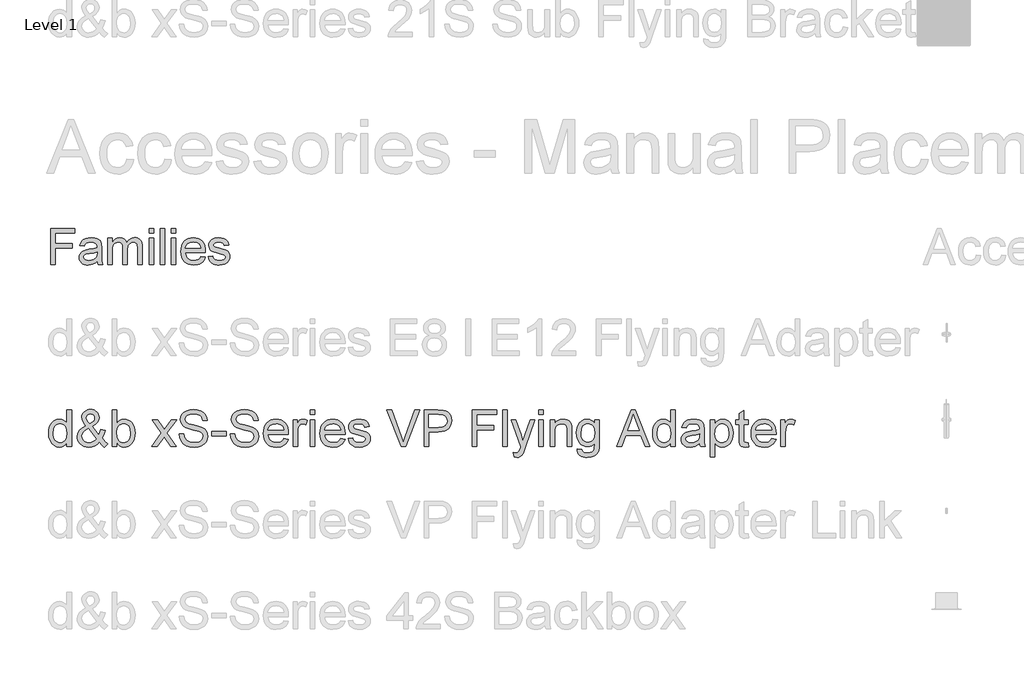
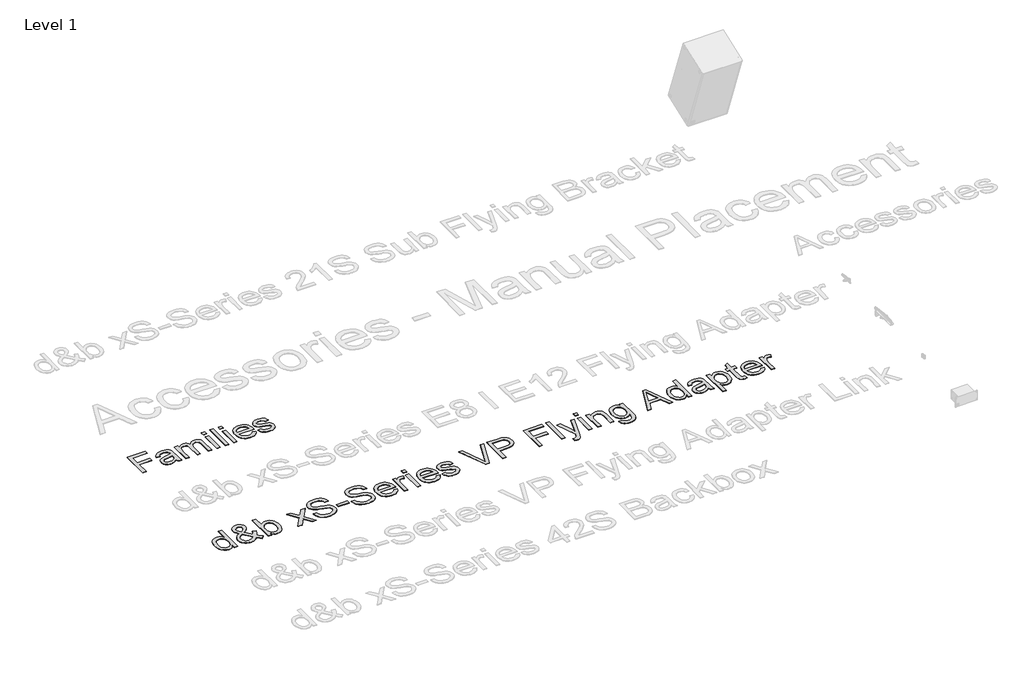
# One storey, part 11 of 55: 2 proxies.
"""IFC4 building model written with IfcOpenShell, lengths in millimetres."""

from ifc_helpers import new_model, si_unit, origin, origin_with_axes, place, context, project, spatial, polyline, outline, extrude, element, save

model = new_model("IFC4")

# Units and contexts
model_context = context("Model", 3, world=origin())
ifc_project = project(units=[si_unit("LENGTHUNIT", "METRE", prefix="MILLI")], contexts=[model_context])

# Site, building, storey
site = spatial("IfcSite", under=ifc_project)
building = spatial("IfcBuilding", under=site)
storey = spatial("IfcBuildingStorey", under=building, Name="Level 1", Elevation=0.0)

# Proxies
placement = place(None, origin())
element("IfcBuildingElementProxy", 1, Name="400mm Arial", ObjectType="400mm Arial", at=placement, inside=storey, context=model_context, shape_type="SweptSolid", body=[
    extrude(outline(polyline([(-21056.720891, -26148.6945164), (-21056.720891, -25756.9369407), (-20793.5087698, -25756.9369407), (-20793.5087698, -25805.9066376), (-21007.7511941, -25805.9066376), (-21007.7511941, -25922.2096679), (-20824.1148304, -25922.2096679), (-20824.1148304, -25971.1793649), (-21007.7511941, -25971.1793649), (-21007.7511941, -26148.6945164), (-21056.720891, -26148.6945164)])), origin_with_axes(), (0.0, 0.0, 1.0), 5.0),
    extrude(outline(polyline([(-20548.660285, -26111.9672437), (-20572.0571836, -26132.02856), (-20596.1475009, -26145.1556907), (-20621.4811893, -26152.4007191), (-20648.6082016, -26154.8157285), (-20670.4120309, -26153.3631362), (-20689.5318522, -26149.0053592), (-20705.9676654, -26141.7423976), (-20719.7194706, -26131.5742513), (-20730.5780466, -26119.1465169), (-20738.3341723, -26105.104791), (-20742.9878477, -26089.4490737), (-20744.5390729, -26072.1793649), (-20742.1957963, -26051.8789388), (-20735.1659668, -26033.4435695), (-20724.3223352, -26017.6623195), (-20710.5376524, -26005.3242513), (-20676.2493001, -25989.2560695), (-20633.879035, -25981.8914861), (-20583.8094327, -25974.144327), (-20548.9472168, -25965.0581528), (-20548.660285, -25954.1547437), (-20552.0317338, -25932.3001035), (-20562.1460804, -25918.0013346), (-20584.7658721, -25907.3848573), (-20616.2805501, -25903.8460316), (-20645.4519516, -25906.2012636), (-20665.8241107, -25913.2669596), (-20679.7163929, -25926.3343128), (-20689.4481638, -25946.6945164), (-20738.4178607, -25940.5733043), (-20729.9175056, -25913.7930013), (-20717.2327282, -25892.7513346), (-20699.1799346, -25876.6592418), (-20674.5755312, -25864.7276604), (-20644.4835568, -25857.339166), (-20609.9680501, -25854.8763346), (-20576.8632916, -25857.0522342), (-20550.6209857, -25863.5799331), (-20530.8346458, -25873.3953924), (-20517.097785, -25885.4345732), (-20507.9876997, -25900.3191613), (-20502.0816865, -25918.6708422), (-20499.690588, -25961.519327), (-20499.690588, -26022.4445164), (-20497.2038456, -26107.5198005), (-20487.4481638, -26148.6945164), (-20536.4178607, -26148.6945164), (-20544.2606638, -26131.6698952), (-20548.660285, -26111.9672437)]), holes=[polyline([(-20548.660285, -26014.0278498), (-20581.5618001, -26022.1814956), (-20627.6621789, -26029.0439482), (-20669.7933342, -26036.9823952), (-20680.7565208, -26042.4101888), (-20688.8743001, -26049.894327), (-20693.8956069, -26058.8609464), (-20695.5693759, -26068.7361831), (-20691.9229507, -26083.2979729), (-20680.9836751, -26095.2295543), (-20662.990659, -26103.1919123), (-20638.1830122, -26105.8460316), (-20611.8809289, -26102.9169359), (-20588.6394516, -26094.129649), (-20569.7975956, -26081.1818507), (-20556.6943759, -26065.771221), (-20550.8840066, -26049.894327), (-20548.9472168, -26027.896221), (-20548.660285, -26014.0278498)])]), origin_with_axes(), (0.0, 0.0, 1.0), 5.0),
    extrude(outline(polyline([(-20432.3572547, -26148.6945164), (-20432.3572547, -25860.9975467), (-20383.3875577, -25860.9975467), (-20383.3875577, -25908.3412967), (-20368.658391, -25886.594256), (-20349.720891, -25869.5576793), (-20327.2206543, -25858.5466708), (-20301.8032774, -25854.8763346), (-20274.5686657, -25858.6184037), (-20252.7379365, -25869.8446111), (-20236.4306448, -25887.8137162), (-20225.7663456, -25911.7844785), (-20207.9167954, -25886.8871656), (-20187.5565918, -25869.1033706), (-20164.6857348, -25858.4330936), (-20139.3042244, -25854.8763346), (-20119.7002057, -25856.3558268), (-20102.4932632, -25860.7943034), (-20087.683397, -25868.1917643), (-20075.2706069, -25878.5482096), (-20065.4581365, -25891.9831942), (-20058.4492291, -25908.6162731), (-20054.2438846, -25928.4474461), (-20052.8421032, -25951.4767134), (-20052.8421032, -26148.6945164), (-20101.8118001, -26148.6945164), (-20101.8118001, -25972.5183801), (-20106.3548872, -25931.630596), (-20112.7391202, -25920.3565666), (-20122.8056448, -25911.4975467), (-20135.7534431, -25905.7589104), (-20150.7814971, -25903.8460316), (-20177.3107348, -25908.7477835), (-20198.9382206, -25923.4530392), (-20207.3279874, -25934.7330463), (-20213.320678, -25948.96606), (-20218.1148304, -25986.2911073), (-20218.1148304, -26148.6945164), (-20267.0845274, -26148.6945164), (-20267.0845274, -25967.0666755), (-20269.9179791, -25939.3777551), (-20278.4183342, -25919.6272816), (-20293.3746552, -25907.7913441), (-20315.5760047, -25903.8460316), (-20334.4417717, -25906.4762399), (-20351.8250577, -25914.3668649), (-20366.1716486, -25927.3266187), (-20375.9273304, -25945.1642134), (-20381.5225009, -25969.9120827), (-20383.3875577, -26003.6026604), (-20383.3875577, -26148.6945164), (-20432.3572547, -26148.6945164)])), origin_with_axes(), (0.0, 0.0, 1.0), 5.0),
    extrude(outline(polyline([(-19979.3875577, -25805.9066376), (-19979.3875577, -25756.9369407), (-19930.4178607, -25756.9369407), (-19930.4178607, -25805.9066376), (-19979.3875577, -25805.9066376)])), origin_with_axes(), (0.0, 0.0, 1.0), 5.0),
    extrude(outline(polyline([(-19979.3875577, -26148.6945164), (-19979.3875577, -25860.9975467), (-19930.4178607, -25860.9975467), (-19930.4178607, -26148.6945164), (-19979.3875577, -26148.6945164)])), origin_with_axes(), (0.0, 0.0, 1.0), 5.0),
    extrude(outline(polyline([(-19856.9633153, -26148.6945164), (-19856.9633153, -25756.9369407), (-19807.9936183, -25756.9369407), (-19807.9936183, -26148.6945164), (-19856.9633153, -26148.6945164)])), origin_with_axes(), (0.0, 0.0, 1.0), 5.0),
    extrude(outline(polyline([(-19734.5390729, -25805.9066376), (-19734.5390729, -25756.9369407), (-19685.5693759, -25756.9369407), (-19685.5693759, -25805.9066376), (-19734.5390729, -25805.9066376)])), origin_with_axes(), (0.0, 0.0, 1.0), 5.0),
    extrude(outline(polyline([(-19734.5390729, -26148.6945164), (-19734.5390729, -25860.9975467), (-19685.5693759, -25860.9975467), (-19685.5693759, -26148.6945164), (-19734.5390729, -26148.6945164)])), origin_with_axes(), (0.0, 0.0, 1.0), 5.0),
    extrude(outline(polyline([(-19410.6886941, -26062.9975467), (-19362.6754365, -26069.1187589), (-19370.0370309, -26088.3491684), (-19379.975034, -26105.2960789), (-19392.4894457, -26119.9594904), (-19407.580266, -26132.3394028), (-19425.0920736, -26142.1727953), (-19444.8694469, -26149.1966471), (-19491.220891, -26154.8157285), (-19521.605775, -26152.3917525), (-19548.6789876, -26145.1198242), (-19572.4405288, -26132.9999437), (-19592.8903986, -26116.0321111), (-19609.3351784, -26094.6885683), (-19621.0814497, -26069.4415571), (-19628.1292125, -26040.2910777), (-19630.4784668, -26007.2371301), (-19628.1053015, -25973.062355), (-19620.9858058, -25942.9404918), (-19609.1199796, -25916.8715406), (-19592.5078229, -25894.8555013), (-19572.1117528, -25877.3646159), (-19548.8941865, -25864.8711263), (-19522.855124, -25857.3750325), (-19493.9945653, -25854.8763346), (-19466.0635461, -25857.3690548), (-19440.8045795, -25864.8472153), (-19418.2176654, -25877.3108161), (-19398.3028039, -25894.7598573), (-19382.0463231, -25916.7280747), (-19370.4345511, -25942.7492039), (-19363.4674879, -25972.8232451), (-19361.1451335, -26006.9501982), (-19361.4320653, -26020.1490619), (-19581.5087698, -26020.1490619), (-19578.6723292, -26039.6903142), (-19573.0323257, -26056.8046017), (-19564.5887592, -26071.4919241), (-19553.3416297, -26083.7522816), (-19524.9234242, -26100.3225941), (-19490.2644516, -26105.8460316), (-19464.2014782, -26103.2875562), (-19442.2511941, -26095.6121301), (-19424.4135994, -26082.3415335), (-19410.6886941, -26062.9975467)]), holes=[polyline([(-19581.5087698, -25971.1793649), (-19410.1148304, -25971.1793649), (-19416.7381732, -25945.3076793), (-19429.721838, -25926.800577), (-19443.076123, -25916.7579634), (-19458.2715539, -25909.5846679), (-19494.1858532, -25903.8460316), (-19527.1949677, -25908.4249852), (-19554.4893569, -25922.161846), (-19573.4627234, -25943.5741329), (-19581.5087698, -25971.1793649)])]), origin_with_axes(), (0.0, 0.0, 1.0), 5.0),
    extrude(outline(polyline([(-19330.5390729, -26062.9975467), (-19281.5693759, -26056.8763346), (-19273.8461278, -26077.8223573), (-19258.9017622, -26093.2210316), (-19236.6406354, -26102.6897816), (-19206.9671032, -26105.8460316), (-19177.6522357, -26102.9528024), (-19157.0409668, -26094.2731149), (-19144.8463645, -26081.6959369), (-19140.7814971, -26067.1102361), (-19144.8702755, -26054.628702), (-19157.1366107, -26045.1121301), (-19207.5409668, -26031.1481149), (-19281.2824441, -26007.1893081), (-19299.9449677, -25995.1501272), (-19313.4666297, -25979.2134558), (-19321.680053, -25960.3955107), (-19324.4178607, -25939.7125089), (-19322.2180501, -25920.7391424), (-19315.6186183, -25903.224346), (-19305.2173399, -25887.8615382), (-19291.6119895, -25875.3441376), (-19260.4798872, -25860.8540808), (-19218.3487319, -25854.8763346), (-19186.4753891, -25857.2793886), (-19158.7625577, -25864.4885505), (-19136.4775198, -25875.7984464), (-19120.8875577, -25890.503702), (-19110.5580122, -25909.6922674), (-19104.0542244, -25934.4520922), (-19153.0239213, -25940.5733043), (-19159.2049109, -25925.1626746), (-19171.4353797, -25913.5538914), (-19189.8348825, -25906.2729965), (-19214.5229744, -25903.8460316), (-19242.6422925, -25906.1653971), (-19261.3885047, -25913.1234937), (-19271.933249, -25923.1661073), (-19275.4481638, -25934.739024), (-19269.6138835, -25948.989971), (-19251.345891, -25959.7977361), (-19209.1669138, -25970.2229255), (-19137.2904933, -25993.2731149), (-19118.3051713, -26004.2960789), (-19103.9107585, -26019.3839104), (-19094.8365397, -26038.5844312), (-19091.8118001, -26061.9454634), (-19095.3625814, -26086.0955581), (-19106.0149251, -26108.8109937), (-19123.3623446, -26128.3104018), (-19146.9983532, -26142.8124142), (-19175.5480691, -26151.8149), (-19207.6366107, -26154.8157285), (-19233.9924938, -26153.369114), (-19257.0127944, -26149.0292702), (-19276.6975127, -26141.7961973), (-19293.0466486, -26131.6698952), (-19306.4009336, -26118.6981859), (-19317.1010994, -26102.9288914), (-19325.1471458, -26084.3620117), (-19330.5390729, -26062.9975467)])), origin_with_axes(), (0.0, 0.0, 1.0), 5.0),
])
element("IfcBuildingElementProxy", 2, Name="400mm Arial", ObjectType="400mm Arial", at=placement, inside=storey, context=model_context, shape_type="SweptSolid", body=[
    extrude(outline(polyline([(-20879.8211974, -28148.6945164), (-20879.8211974, -28101.3113154), (-20894.8491769, -28124.7883181), (-20913.0532043, -28141.5576057), (-20934.4332796, -28151.6191783), (-20958.9894028, -28154.9730358), (-20991.4611202, -28150.1169935), (-21021.1859854, -28135.5488665), (-21046.3491139, -28112.2864616), (-21065.1356211, -28081.3475858), (-21076.8342686, -28043.9830379), (-21080.7338177, -28001.4436165), (-21077.1408369, -27959.4314926), (-21066.3618945, -27921.4905962), (-21048.4092531, -27889.7791682), (-21023.2951755, -27866.4554497), (-20992.9203855, -27852.1080519), (-20959.1856065, -27847.325586), (-20934.6110892, -27850.7468885), (-20912.8815261, -27861.0107962), (-20894.4629008, -27876.7438829), (-20879.8211974, -27896.5727224), (-20879.8211974, -27746.8692758), (-20829.5930424, -27746.8692758), (-20829.5930424, -28148.6945164), (-20879.8211974, -28148.6945164)]), holes=[polyline([(-21030.5056627, -28001.2474128), (-21029.089317, -28025.6042665), (-21024.8402799, -28046.6808392), (-21017.7585515, -28064.4771307), (-21007.8441318, -28078.9931411), (-20983.1469871, -28098.3069458), (-20969.2717046, -28103.135397), (-20954.3786151, -28104.7448807), (-20939.415015, -28103.2089734), (-20925.6225058, -28098.6012514), (-20901.5507606, -28080.1703635), (-20892.0440767, -28066.2613584), (-20885.2535882, -28049.1088603), (-20879.8211974, -28005.0733855), (-20885.3516901, -27956.9298951), (-20892.2648059, -27938.3947739), (-20901.9431681, -27923.5507354), (-20913.6448812, -27912.1770504), (-20926.6280499, -27904.0529896), (-20940.8926743, -27899.1785532), (-20956.4387543, -27897.5537411), (-20971.6261493, -27899.1141738), (-20985.5014319, -27903.7954722), (-20998.064602, -27911.5976362), (-21009.3156597, -27922.5206658), (-21018.586286, -27936.8036843), (-21025.2081619, -27954.6858149), (-21030.5056627, -28001.2474128)])]), origin_with_axes(), (0.0, 0.0, 1.0), 5.0),
    extrude(outline(polyline([(-20523.809528, -28099.0549725), (-20549.3405384, -28123.5191252), (-20577.0788409, -28140.99352), (-20607.0734862, -28151.4781569), (-20639.3735254, -28154.9730358), (-20668.6814577, -28152.3855991), (-20694.8010793, -28144.623289), (-20717.7323904, -28131.6861055), (-20737.4753908, -28113.5740486), (-20750.308341, -28096.2038871), (-20759.4747341, -28077.8404442), (-20764.9745699, -28058.4837198), (-20766.8078485, -28038.1337141), (-20760.9094739, -28002.9396699), (-20743.2143499, -27971.3263438), (-20713.796053, -27943.3182613), (-20672.7281596, -27918.9399477), (-20694.6416638, -27890.5885086), (-20707.7995765, -27868.1231814), (-20714.3846642, -27848.9442668), (-20716.5796934, -27830.4520651), (-20714.8506481, -27812.8979626), (-20709.6635119, -27796.5333452), (-20701.018285, -27781.3582129), (-20688.9149674, -27767.3725657), (-20674.1935562, -27755.6555241), (-20657.6940487, -27747.2862088), (-20639.4164449, -27742.2646195), (-20619.3607448, -27740.5907564), (-20600.212487, -27742.1910431), (-20582.8913764, -27746.9919032), (-20567.397413, -27754.9933366), (-20553.7305969, -27766.1953433), (-20542.5715097, -27779.6414302), (-20534.6007332, -27794.3751041), (-20529.8182672, -27810.396365), (-20528.2241119, -27827.7052129), (-20532.9452642, -27855.68877), (-20547.108721, -27881.563137), (-20570.7144823, -27905.3283139), (-20603.7625482, -27926.9843007), (-20531.069066, -28017.5323224), (-20518.6837055, -27991.6579554), (-20509.3885538, -27961.9085647), (-20459.1603987, -27972.7978718), (-20474.6114425, -28019.3226815), (-20494.6732739, -28055.4977443), (-20466.1256311, -28088.8033276), (-20434.0463211, -28116.3209009), (-20471.7174374, -28154.9730358), (-20497.3465498, -28131.52669), (-20523.809528, -28099.0549725)]), holes=[polyline([(-20557.4584678, -28062.8553842), (-20647.1235727, -27950.9211558), (-20681.3733865, -27972.7733463), (-20702.305872, -27993.0068561), (-20713.0112381, -28012.3329235), (-20716.5796934, -28031.4627873), (-20711.6991256, -28055.1543878), (-20697.0574222, -28079.7289051), (-20686.2784798, -28090.6733944), (-20673.4639236, -28098.4908868), (-20658.6137537, -28103.1813823), (-20641.7279702, -28104.7448807), (-20619.0051256, -28101.8263502), (-20595.5710425, -28093.0707588), (-20574.1480476, -28079.6798541), (-20557.4584678, -28062.8553842)]), polyline([(-20629.1709314, -27895.2973981), (-20602.9041569, -27878.6323438), (-20587.8700461, -27864.1500559), (-20580.8067117, -27850.0601755), (-20578.452267, -27834.5723435), (-20581.5547385, -27817.0243723), (-20590.862153, -27803.0325938), (-20604.829406, -27793.8723321), (-20621.9113933, -27790.8189115), (-20639.3612626, -27793.8478066), (-20653.6473468, -27802.9344919), (-20663.1754905, -27816.3867102), (-20666.3515384, -27832.5122043), (-20662.0350563, -27850.9063041), (-20648.9875082, -27871.360543), (-20629.1709314, -27895.2973981)])]), origin_with_axes(), (0.0, 0.0, 1.0), 5.0),
    extrude(outline(polyline([(-20333.590011, -28148.6945164), (-20383.8181661, -28148.6945164), (-20383.8181661, -27746.8692758), (-20333.590011, -27746.8692758), (-20333.590011, -27895.8860093), (-20317.0721094, -27874.6408241), (-20298.4204923, -27859.4656918), (-20277.6351595, -27850.3606124), (-20254.7161112, -27847.325586), (-20228.8417442, -27850.0601755), (-20204.3898543, -27858.263944), (-20182.758393, -27871.4218567), (-20165.3453119, -27889.0188788), (-20151.6968898, -27910.883332), (-20141.3594058, -27936.8435381), (-20134.8478945, -27965.8203766), (-20132.6773907, -27996.734727), (-20134.9245365, -28032.4070178), (-20141.6659741, -28063.7873519), (-20152.9017034, -28090.8757295), (-20168.6317244, -28113.6721505), (-20187.5132678, -28131.7412878), (-20208.2035643, -28144.6478145), (-20230.702614, -28152.3917305), (-20255.0104168, -28154.9730358), (-20278.6836232, -28151.6437038), (-20299.671291, -28141.6557076), (-20317.9734203, -28125.0090473), (-20333.590011, -28101.7037229), (-20333.590011, -28148.6945164)]), holes=[polyline([(-20333.590011, -27999.0891717), (-20330.1564457, -28040.9786682), (-20319.8557498, -28069.3301073), (-20307.6849872, -28084.8240707), (-20293.5399244, -28095.8911874), (-20277.4205617, -28102.5314574), (-20259.3268989, -28104.7448807), (-20244.3050508, -28103.1139372), (-20230.3377977, -28098.2211067), (-20217.4251396, -28090.0663891), (-20205.5670767, -28078.6497845), (-20195.6526569, -28064.0019498), (-20188.5709285, -28046.1535416), (-20184.3218914, -28025.1045601), (-20182.9055458, -28000.8550053), (-20188.3379366, -27954.8942814), (-20195.1284251, -27937.1010555), (-20204.6351089, -27922.7659205), (-20216.0670419, -27911.735592), (-20228.6332778, -27903.8567859), (-20242.3338164, -27899.1295023), (-20257.1686579, -27897.5537411), (-20272.190506, -27899.1846846), (-20286.1577591, -27904.0775151), (-20299.0704171, -27912.2322327), (-20310.9284801, -27923.6488372), (-20320.8428999, -27938.1495192), (-20327.9246283, -27955.556469), (-20332.1736653, -27975.8696865), (-20333.590011, -27999.0891717)])]), origin_with_axes(), (0.0, 0.0, 1.0), 5.0),
    extrude(outline(polyline([(-19950.6003285, -28148.6945164), (-19843.2768878, -28000.2663941), (-19944.3218092, -27853.6041054), (-19884.0872638, -27853.6041054), (-19835.3306367, -27924.3355503), (-19812.4729021, -27957.5920827), (-19792.6563253, -27930.3197641), (-19737.1306695, -27853.6041054), (-19676.6999204, -27853.6041054), (-19782.8461387, -28000.364496), (-19680.623995, -28148.6945164), (-19740.9566422, -28148.6945164), (-19802.5646137, -28059.4218189), (-19813.7482263, -28043.0388074), (-19890.1695795, -28148.6945164), (-19950.6003285, -28148.6945164)])), origin_with_axes(), (0.0, 0.0, 1.0), 5.0),
    extrude(outline(polyline([(-19649.2313981, -28010.56709), (-19599.003243, -28010.56709), (-19593.2397584, -28038.4402825), (-19582.8164352, -28060.844296), (-19566.556051, -28078.6252591), (-19543.2813835, -28092.6293004), (-19514.8318425, -28101.7159856), (-19483.0468381, -28104.7448807), (-19455.063281, -28102.4517496), (-19430.5623402, -28095.5723563), (-19410.7089752, -28084.6830493), (-19396.6681457, -28070.3601769), (-19388.3172244, -28053.9158517), (-19385.533584, -28036.6621862), (-19387.6182486, -28019.849979), (-19393.8722425, -28005.3186402), (-19406.5764341, -27992.9210169), (-19428.0116917, -27982.5099565), (-19501.1466323, -27963.3310418), (-19549.1552327, -27950.639113), (-19579.8733793, -27938.5603208), (-19604.8770922, -27921.6622745), (-19622.5967416, -27901.1835101), (-19633.1549549, -27877.565486), (-19636.6743593, -27851.2496606), (-19632.3210891, -27821.8313637), (-19619.2612782, -27794.3996296), (-19597.8382834, -27771.1494875), (-19568.395461, -27754.2759667), (-19533.054264, -27744.012059), (-19493.9361452, -27740.5907564), (-19451.5561394, -27744.1714745), (-19414.4736342, -27754.9136288), (-19384.013005, -27772.59649), (-19361.4986269, -27796.999329), (-19347.249331, -27826.6015669), (-19341.5839483, -27859.8826247), (-19391.8121033, -27859.8826247), (-19401.0336787, -27829.9125049), (-19409.3968627, -27818.0544419), (-19420.2616443, -27808.2810436), (-19450.3053406, -27795.1844445), (-19491.9741079, -27790.8189115), (-19534.6238939, -27795.1353936), (-19550.9271976, -27800.5309962), (-19563.8827752, -27808.0848398), (-19580.805347, -27827.1411272), (-19586.4462043, -27849.7781326), (-19582.4485532, -27869.0796746), (-19570.4556002, -27884.6042948), (-19542.1041611, -27898.4857088), (-19488.4424407, -27912.6614283), (-19433.0639377, -27926.1259093), (-19399.5621507, -27937.8736077), (-19370.9286687, -27956.0960292), (-19350.9526764, -27978.5858819), (-19339.2172408, -28005.097911), (-19335.3054289, -28035.3868619), (-19339.805852, -28066.3502632), (-19353.3071212, -28095.4742545), (-19375.2574136, -28120.5392811), (-19405.1049061, -28139.3257883), (-19440.9979261, -28151.0612239), (-19481.0848008, -28154.9730358), (-19530.2951491, -28150.7546556), (-19570.7989567, -28138.099515), (-19603.0622077, -28116.958563), (-19627.5508858, -28087.2827487), (-19643.2717098, -28051.1322113), (-19649.2313981, -28010.56709)])), origin_with_axes(), (0.0, 0.0, 1.0), 5.0),
    extrude(outline(polyline([(-19291.3557932, -28029.4026481), (-19291.3557932, -27979.174493), (-19134.3928086, -27979.174493), (-19134.3928086, -28029.4026481), (-19291.3557932, -28029.4026481)])), origin_with_axes(), (0.0, 0.0, 1.0), 5.0),
    extrude(outline(polyline([(-19090.4431729, -28010.56709), (-19040.2150178, -28010.56709), (-19034.4515332, -28038.4402825), (-19024.02821, -28060.844296), (-19007.7678258, -28078.6252591), (-18984.4931583, -28092.6293004), (-18956.0436173, -28101.7159856), (-18924.2586129, -28104.7448807), (-18896.2750558, -28102.4517496), (-18871.774115, -28095.5723563), (-18851.9207499, -28084.6830493), (-18837.8799205, -28070.3601769), (-18829.5289992, -28053.9158517), (-18826.7453587, -28036.6621862), (-18828.8300234, -28019.849979), (-18835.0840173, -28005.3186402), (-18847.7882089, -27992.9210169), (-18869.2234665, -27982.5099565), (-18942.3584071, -27963.3310418), (-18990.3670075, -27950.639113), (-19021.0851541, -27938.5603208), (-19046.088867, -27921.6622745), (-19063.8085164, -27901.1835101), (-19074.3667297, -27877.565486), (-19077.8861341, -27851.2496606), (-19073.5328638, -27821.8313637), (-19060.473053, -27794.3996296), (-19039.0500582, -27771.1494875), (-19009.6072358, -27754.2759667), (-18974.2660388, -27744.012059), (-18935.14792, -27740.5907564), (-18892.7679141, -27744.1714745), (-18855.685409, -27754.9136288), (-18825.2247798, -27772.59649), (-18802.7104017, -27796.999329), (-18788.4611058, -27826.6015669), (-18782.7957231, -27859.8826247), (-18833.0238781, -27859.8826247), (-18842.2454535, -27829.9125049), (-18850.6086375, -27818.0544419), (-18861.4734191, -27808.2810436), (-18891.5171154, -27795.1844445), (-18933.1858827, -27790.8189115), (-18975.8356687, -27795.1353936), (-18992.1389724, -27800.5309962), (-19005.09455, -27808.0848398), (-19022.0171218, -27827.1411272), (-19027.657979, -27849.7781326), (-19023.660328, -27869.0796746), (-19011.667375, -27884.6042948), (-18983.3159359, -27898.4857088), (-18929.6542155, -27912.6614283), (-18874.2757125, -27926.1259093), (-18840.7739255, -27937.8736077), (-18812.1404435, -27956.0960292), (-18792.1644512, -27978.5858819), (-18780.4290156, -28005.097911), (-18776.5172037, -28035.3868619), (-18781.0176267, -28066.3502632), (-18794.518896, -28095.4742545), (-18816.4691883, -28120.5392811), (-18846.3166809, -28139.3257883), (-18882.2097009, -28151.0612239), (-18922.2965756, -28154.9730358), (-18971.5069238, -28150.7546556), (-19012.0107315, -28138.099515), (-19044.2739825, -28116.958563), (-19068.7626606, -28087.2827487), (-19084.4834846, -28051.1322113), (-19090.4431729, -28010.56709)])), origin_with_axes(), (0.0, 0.0, 1.0), 5.0),
    extrude(outline(polyline([(-18500.850962, -28060.795245), (-18451.6038255, -28067.0737644), (-18459.1546035, -28086.7983707), (-18469.3480004, -28104.180795), (-18482.1840164, -28119.2210372), (-18497.6626513, -28131.9190974), (-18515.6244897, -28142.0051955), (-18535.9101161, -28149.2095512), (-18583.4527326, -28154.9730358), (-18614.618469, -28152.4867667), (-18642.3874282, -28145.0279592), (-18666.7596104, -28132.5966135), (-18687.7350155, -28115.1927294), (-18704.602405, -28093.300685), (-18716.6505403, -28067.4048582), (-18723.8794215, -28037.5052491), (-18726.2890486, -28003.6018575), (-18723.8548961, -27968.5488348), (-18716.5524385, -27937.6528785), (-18704.3816758, -27910.9139888), (-18687.342608, -27888.3321657), (-18666.4223852, -27870.3917871), (-18642.6081574, -27857.5772309), (-18615.8999246, -27849.8884972), (-18586.2976867, -27847.325586), (-18557.6488763, -27849.8823658), (-18531.7407868, -27857.5527054), (-18508.5734182, -27870.3366048), (-18488.1467704, -27888.2340638), (-18471.472519, -27910.766836), (-18459.5623394, -27937.4566748), (-18452.4162316, -27968.3035801), (-18450.0341957, -28003.3075519), (-18450.3285013, -28016.8456094), (-18676.0608935, -28016.8456094), (-18673.1515601, -28036.8890467), (-18667.3666157, -28054.4431493), (-18658.7060604, -28069.507917), (-18647.1698942, -28082.0833498), (-18633.3957791, -28091.9977696), (-18618.0213774, -28099.079498), (-18582.4717139, -28104.7448807), (-18555.7389556, -28102.1206558), (-18533.2245775, -28094.2479811), (-18514.9285796, -28080.6363473), (-18500.850962, -28060.795245)]), holes=[polyline([(-18676.0608935, -27966.6174543), (-18500.2623508, -27966.6174543), (-18507.0559049, -27940.0808997), (-18520.3732332, -27921.0981887), (-18534.0707061, -27910.7974929), (-18549.65664, -27903.439853), (-18567.1310348, -27899.025269), (-18586.4938904, -27897.5537411), (-18620.3512967, -27902.2503679), (-18648.3471166, -27916.3402483), (-18667.8080741, -27938.3028034), (-18676.0608935, -27966.6174543)])]), origin_with_axes(), (0.0, 0.0, 1.0), 5.0),
    extrude(outline(polyline([(-18399.8060406, -28148.6945164), (-18399.8060406, -27853.6041054), (-18355.8564049, -27853.6041054), (-18355.8564049, -27897.2594355), (-18339.6205462, -27871.9491542), (-18324.6600117, -27857.0376707), (-18309.6504263, -27849.7536071), (-18293.2674148, -27847.325586), (-18268.2514391, -27851.2006097), (-18242.843056, -27862.8256807), (-18259.618475, -27907.8544369), (-18277.2768108, -27900.128915), (-18294.9351465, -27897.5537411), (-18309.9324692, -27900.0308132), (-18323.3356365, -27907.4620295), (-18334.1636299, -27919.2833042), (-18341.4354307, -27934.9305518), (-18347.5422718, -27962.9876853), (-18349.5778855, -27993.5954673), (-18349.5778855, -28148.6945164), (-18399.8060406, -28148.6945164)])), origin_with_axes(), (0.0, 0.0, 1.0), 5.0),
    extrude(outline(polyline([(-18211.4504591, -27797.0974309), (-18211.4504591, -27746.8692758), (-18161.222304, -27746.8692758), (-18161.222304, -27797.0974309), (-18211.4504591, -27797.0974309)])), origin_with_axes(), (0.0, 0.0, 1.0), 5.0),
    extrude(outline(polyline([(-18211.4504591, -28148.6945164), (-18211.4504591, -27853.6041054), (-18161.222304, -27853.6041054), (-18161.222304, -28148.6945164), (-18211.4504591, -28148.6945164)])), origin_with_axes(), (0.0, 0.0, 1.0), 5.0),
    extrude(outline(polyline([(-17879.2775429, -28060.795245), (-17830.0304065, -28067.0737644), (-17837.5811844, -28086.7983707), (-17847.7745814, -28104.180795), (-17860.6105973, -28119.2210372), (-17876.0892323, -28131.9190974), (-17894.0510707, -28142.0051955), (-17914.336697, -28149.2095512), (-17961.8793136, -28154.9730358), (-17993.0450499, -28152.4867667), (-18020.8140092, -28145.0279592), (-18045.1861914, -28132.5966135), (-18066.1615965, -28115.1927294), (-18083.0289859, -28093.300685), (-18095.0771213, -28067.4048582), (-18102.3060025, -28037.5052491), (-18104.7156295, -28003.6018575), (-18102.281477, -27968.5488348), (-18094.9790194, -27937.6528785), (-18082.8082567, -27910.9139888), (-18065.769189, -27888.3321657), (-18044.8489662, -27870.3917871), (-18021.0347384, -27857.5772309), (-17994.3265055, -27849.8884972), (-17964.7242676, -27847.325586), (-17936.0754573, -27849.8823658), (-17910.1673678, -27857.5527054), (-17886.9999991, -27870.3366048), (-17866.5733513, -27888.2340638), (-17849.8990999, -27910.766836), (-17837.9889203, -27937.4566748), (-17830.8428126, -27968.3035801), (-17828.4607766, -28003.3075519), (-17828.7550822, -28016.8456094), (-18054.4874745, -28016.8456094), (-18051.578141, -28036.8890467), (-18045.7931967, -28054.4431493), (-18037.1326413, -28069.507917), (-18025.5964751, -28082.0833498), (-18011.8223601, -28091.9977696), (-17996.4479584, -28099.079498), (-17960.8982949, -28104.7448807), (-17934.1655366, -28102.1206558), (-17911.6511585, -28094.2479811), (-17893.3551606, -28080.6363473), (-17879.2775429, -28060.795245)]), holes=[polyline([(-18054.4874745, -27966.6174543), (-17878.6889317, -27966.6174543), (-17885.4824859, -27940.0808997), (-17898.7998141, -27921.0981887), (-17912.4972871, -27910.7974929), (-17928.0832209, -27903.439853), (-17945.5576157, -27899.025269), (-17964.9204714, -27897.5537411), (-17998.7778777, -27902.2503679), (-18026.7736975, -27916.3402483), (-18046.234655, -27938.3028034), (-18054.4874745, -27966.6174543)])]), origin_with_axes(), (0.0, 0.0, 1.0), 5.0),
    extrude(outline(polyline([(-17797.0681797, -28060.795245), (-17746.8400246, -28054.5167257), (-17738.918299, -28076.0010342), (-17723.5898825, -28091.7954345), (-17700.7566734, -28101.5075192), (-17670.3205696, -28104.7448807), (-17640.2523479, -28101.7772993), (-17619.1113959, -28092.874555), (-17606.6034081, -28079.9741597), (-17602.4340788, -28065.0136253), (-17606.6279335, -28052.2113318), (-17619.2094978, -28042.4501962), (-17670.9091808, -28028.1273239), (-17746.545719, -28003.5528066), (-17765.6878455, -27991.2042343), (-17779.5569967, -27974.858011), (-17787.9814944, -27955.556469), (-17790.7896603, -27934.3419406), (-17788.5333174, -27914.880983), (-17781.7642887, -27896.9160789), (-17771.0957109, -27881.1584668), (-17757.1407205, -27868.3193852), (-17725.2085633, -27853.4569526), (-17704.3251287, -27848.8584276), (-17681.9946916, -27847.325586), (-17649.302245, -27849.7903953), (-17620.8772295, -27857.1848234), (-17598.0194949, -27868.785369), (-17582.0288908, -27883.8685308), (-17571.4338893, -27903.5502176), (-17564.7629625, -27928.946338), (-17614.9911176, -27935.2248574), (-17621.3309506, -27919.4181943), (-17633.8757267, -27907.5110804), (-17652.748073, -27900.0430759), (-17678.070617, -27897.5537411), (-17706.9125654, -27899.9327113), (-17726.140531, -27907.069622), (-17736.9562617, -27917.3703179), (-17740.5615053, -27929.2406436), (-17734.5772915, -27943.8578215), (-17715.8398352, -27954.9433323), (-17672.5769125, -27965.6364356), (-17598.8533607, -27989.2789852), (-17579.3801404, -28000.5852252), (-17564.6158097, -28016.0607944), (-17555.3083952, -28035.7547439), (-17552.2059237, -28059.7161245), (-17555.8479555, -28084.4868455), (-17566.7740507, -28107.7860386), (-17584.5672766, -28127.7865564), (-17608.8107, -28142.6612517), (-17638.0941069, -28151.8950898), (-17671.0072827, -28154.9730358), (-17698.040478, -28153.4892451), (-17721.6523707, -28149.037873), (-17741.8429609, -28141.6189194), (-17758.6122485, -28131.2323844), (-17772.3097214, -28117.9273189), (-17783.2848676, -28101.7527738), (-17791.5376871, -28082.7087492), (-17797.0681797, -28060.795245)])), origin_with_axes(), (0.0, 0.0, 1.0), 5.0),
    extrude(outline(polyline([(-17213.85259, -28148.6945164), (-17373.6605287, -27746.8692758), (-17319.9007065, -27746.8692758), (-17212.8715714, -28036.3678806), (-17191.1910591, -28101.605621), (-17169.8048525, -28036.3678806), (-17062.4814117, -27746.8692758), (-17008.8196914, -27746.8692758), (-17162.0548051, -28148.6945164), (-17213.85259, -28148.6945164)])), origin_with_axes(), (0.0, 0.0, 1.0), 5.0),
    extrude(outline(polyline([(-16962.0251016, -28148.6945164), (-16962.0251016, -27746.8692758), (-16813.1064699, -27746.8692758), (-16753.0681283, -27750.6952486), (-16726.2985818, -27757.844422), (-16704.2624503, -27769.4817558), (-16686.5182754, -27786.1345474), (-16672.6245987, -27808.3300945), (-16663.648278, -27834.5110298), (-16660.6561711, -27863.1199863), (-16662.6764564, -27887.7864741), (-16668.7373123, -27910.4786618), (-16678.8387388, -27931.1965495), (-16692.9807358, -27949.9401372), (-16712.3957081, -27965.4770201), (-16738.3160603, -27976.5747936), (-16770.7417925, -27983.2334577), (-16809.6729047, -27985.4530124), (-16911.7969465, -27985.4530124), (-16911.7969465, -28148.6945164), (-16962.0251016, -28148.6945164)]), holes=[polyline([(-16911.7969465, -27935.2248574), (-16806.7298487, -27935.2248574), (-16762.1916018, -27930.6140697), (-16745.5878611, -27924.8505851), (-16732.7610422, -27916.7817067), (-16723.189979, -27906.6220322), (-16716.3535052, -27894.5861596), (-16710.8843262, -27864.8858199), (-16714.109425, -27842.3223908), (-16723.7847215, -27823.290629), (-16738.7084678, -27808.9677566), (-16757.678916, -27800.5309962), (-16807.9070711, -27797.0974309), (-16911.7969465, -27797.0974309), (-16911.7969465, -27935.2248574)])]), origin_with_axes(), (0.0, 0.0, 1.0), 5.0),
    extrude(outline(polyline([(-16434.6294733, -28148.6945164), (-16434.6294733, -27746.8692758), (-16164.6531398, -27746.8692758), (-16164.6531398, -27797.0974309), (-16384.4013182, -27797.0974309), (-16384.4013182, -27916.3892992), (-16196.0457367, -27916.3892992), (-16196.0457367, -27966.6174543), (-16384.4013182, -27966.6174543), (-16384.4013182, -28148.6945164), (-16434.6294733, -28148.6945164)])), origin_with_axes(), (0.0, 0.0, 1.0), 5.0),
    extrude(outline(polyline([(-16101.8679459, -28148.6945164), (-16101.8679459, -27746.8692758), (-16051.6397909, -27746.8692758), (-16051.6397909, -28148.6945164), (-16101.8679459, -28148.6945164)])), origin_with_axes(), (0.0, 0.0, 1.0), 5.0),
    extrude(outline(polyline([(-15976.2975583, -28261.7078653), (-15982.5760776, -28213.3436457), (-15957.0695926, -28217.7582297), (-15943.6541625, -28216.3725408), (-15933.2308393, -28212.2154743), (-15918.6136614, -28196.7644305), (-15904.8794003, -28159.7800272), (-15900.9553256, -28147.6153959), (-16007.6901552, -27853.6041054), (-15954.8132497, -27853.6041054), (-15898.1103715, -28017.5323224), (-15878.3918966, -28083.0643685), (-15858.6734217, -28025.086166), (-15800.4990155, -27853.6041054), (-15748.0145175, -27853.6041054), (-15850.7271706, -28155.7578507), (-15877.4108779, -28221.2898968), (-15891.0715627, -28242.2101196), (-15906.547132, -28256.7046702), (-15924.4997733, -28265.1659561), (-15945.5916744, -28267.9863847), (-15976.2975583, -28261.7078653)])), origin_with_axes(), (0.0, 0.0, 1.0), 5.0),
    extrude(outline(polyline([(-15706.3212247, -27797.0974309), (-15706.3212247, -27746.8692758), (-15656.0930696, -27746.8692758), (-15656.0930696, -27797.0974309), (-15706.3212247, -27797.0974309)])), origin_with_axes(), (0.0, 0.0, 1.0), 5.0),
    extrude(outline(polyline([(-15706.3212247, -28148.6945164), (-15706.3212247, -27853.6041054), (-15656.0930696, -27853.6041054), (-15656.0930696, -28148.6945164), (-15706.3212247, -28148.6945164)])), origin_with_axes(), (0.0, 0.0, 1.0), 5.0),
    extrude(outline(polyline([(-15580.750837, -28148.6945164), (-15580.750837, -27853.6041054), (-15530.522682, -27853.6041054), (-15530.522682, -27894.8068888), (-15513.0728127, -27874.0338188), (-15492.1158017, -27859.1959117), (-15467.651649, -27850.2931674), (-15439.6803546, -27847.325586), (-15414.9218963, -27849.7168189), (-15392.2481027, -27856.8905179), (-15373.3389682, -27867.9515032), (-15359.8744871, -27882.0045954), (-15350.7387509, -27899.0130063), (-15344.8158508, -27918.9399477), (-15342.1671004, -27967.5003711), (-15342.1671004, -28148.6945164), (-15392.3952555, -28148.6945164), (-15392.3952555, -27974.2693998), (-15393.842258, -27948.2969309), (-15398.1832656, -27929.8292548), (-15406.1908303, -27916.5977657), (-15418.6375045, -27906.333858), (-15434.5913204, -27899.7487703), (-15453.1203102, -27897.5537411), (-15482.5386071, -27902.4833598), (-15507.6158964, -27917.272216), (-15517.6376151, -27929.3448768), (-15524.7959856, -27945.8443843), (-15529.0910079, -27966.7707384), (-15530.522682, -27992.1239393), (-15530.522682, -28148.6945164), (-15580.750837, -28148.6945164)])), origin_with_axes(), (0.0, 0.0, 1.0), 5.0),
    extrude(outline(polyline([(-15285.660426, -28173.808594), (-15235.4322709, -28180.0871133), (-15229.8895155, -28195.7834118), (-15219.1473612, -28206.574617), (-15198.0309347, -28214.9623265), (-15170.3907342, -28217.7582297), (-15140.9111236, -28214.5944445), (-15118.9853567, -28205.103089), (-15103.7795676, -28189.8972999), (-15094.4598903, -28169.5902138), (-15091.0263251, -28111.0234001), (-15107.7404304, -28127.5045135), (-15126.3920475, -28139.2767374), (-15146.9811765, -28146.3400717), (-15169.5078174, -28148.6945164), (-15197.0468504, -28145.9537956), (-15221.2933395, -28137.731633), (-15242.2472849, -28124.0280287), (-15259.9086863, -28104.8429826), (-15273.9219246, -28081.8258324), (-15283.9313806, -28056.6259158), (-15289.9370542, -28029.2432326), (-15291.9389454, -27999.6777829), (-15288.3459645, -27959.1249243), (-15277.5670221, -27921.8339527), (-15259.9822627, -27890.2328893), (-15235.9718312, -27866.7497553), (-15206.3573305, -27852.1816283), (-15171.960364, -27847.325586), (-15148.4710986, -27850.0724382), (-15127.152337, -27858.3129949), (-15108.0040791, -27872.0472561), (-15091.0263251, -27891.2752217), (-15091.0263251, -27853.6041054), (-15040.79817, -27853.6041054), (-15040.79817, -28108.3746498), (-15044.2317353, -28167.1989808), (-15054.5324311, -28205.9369549), (-15072.276606, -28231.6273809), (-15098.0406084, -28251.3090676), (-15131.2603526, -28263.8170555), (-15171.3717528, -28267.9863847), (-15195.9799926, -28266.5179224), (-15218.1050289, -28262.1125355), (-15237.7468618, -28254.7702241), (-15254.9054912, -28244.490988), (-15268.7654453, -28231.2625646), (-15278.5112525, -28215.0726911), (-15284.1429127, -28195.9213676), (-15285.660426, -28173.808594)]), holes=[polyline([(-15241.7107903, -27996.2442176), (-15236.3519759, -28042.3153062), (-15229.6534579, -28059.9521821), (-15220.2755327, -28073.9899459), (-15208.8742565, -28084.6983777), (-15196.1056856, -28092.3472575), (-15181.9698199, -28096.9365854), (-15166.4666595, -28098.4663614), (-15151.1167833, -28096.9457824), (-15137.0483627, -28092.3840457), (-15124.2613976, -28084.7811511), (-15112.7558882, -28074.1370987), (-15103.2492043, -28060.2372907), (-15096.4587159, -28042.8671291), (-15091.0263251, -27997.7157456), (-15096.6181314, -27954.1707801), (-15103.6078893, -27936.9692312), (-15113.3935504, -27922.8149714), (-15125.1473801, -27911.7631831), (-15138.041644, -27903.8690486), (-15152.0763422, -27899.1325679), (-15167.2514745, -27897.5537411), (-15182.172155, -27899.1080425), (-15195.9340073, -27903.7709468), (-15219.9812271, -27922.4225639), (-15229.487911, -27936.3622259), (-15236.2783995, -27953.3123888), (-15241.7107903, -27996.2442176)])]), origin_with_axes(), (0.0, 0.0, 1.0), 5.0),
    extrude(outline(polyline([(-14848.9109213, -28148.6945164), (-14688.5143714, -27746.8692758), (-14645.7419581, -27746.8692758), (-14485.4435101, -28148.6945164), (-14538.5166192, -28148.6945164), (-14584.4282922, -28023.1241287), (-14750.024241, -28023.1241287), (-14795.935914, -28148.6945164), (-14848.9109213, -28148.6945164)]), holes=[polyline([(-14731.5810903, -27972.8959737), (-14602.7733411, -27972.8959737), (-14639.0710312, -27874.1073952), (-14667.2262666, -27797.0974309), (-14692.2422423, -27865.4744311), (-14731.5810903, -27972.8959737)])]), origin_with_axes(), (0.0, 0.0, 1.0), 5.0),
    extrude(outline(polyline([(-14255.9832469, -28148.6945164), (-14255.9832469, -28101.3113154), (-14271.0112264, -28124.7883181), (-14289.2152538, -28141.5576057), (-14310.5953291, -28151.6191783), (-14335.1514523, -28154.9730358), (-14367.6231697, -28150.1169935), (-14397.348035, -28135.5488665), (-14422.5111634, -28112.2864616), (-14441.2976706, -28081.3475858), (-14452.9963181, -28043.9830379), (-14456.8958672, -28001.4436165), (-14453.3028864, -27959.4314926), (-14442.523944, -27921.4905962), (-14424.5713026, -27889.7791682), (-14399.4572251, -27866.4554497), (-14369.082435, -27852.1080519), (-14335.347656, -27847.325586), (-14310.7731388, -27850.7468885), (-14289.0435756, -27861.0107962), (-14270.6249503, -27876.7438829), (-14255.9832469, -27896.5727224), (-14255.9832469, -27746.8692758), (-14205.7550919, -27746.8692758), (-14205.7550919, -28148.6945164), (-14255.9832469, -28148.6945164)]), holes=[polyline([(-14406.6677122, -28001.2474128), (-14405.2513665, -28025.6042665), (-14401.0023294, -28046.6808392), (-14393.920601, -28064.4771307), (-14384.0061813, -28078.9931411), (-14359.3090367, -28098.3069458), (-14345.4337541, -28103.135397), (-14330.5406646, -28104.7448807), (-14315.5770645, -28103.2089734), (-14301.7845553, -28098.6012514), (-14277.7128101, -28080.1703635), (-14268.2061262, -28066.2613584), (-14261.4156377, -28049.1088603), (-14255.9832469, -28005.0733855), (-14261.5137396, -27956.9298951), (-14268.4268554, -27938.3947739), (-14278.1052176, -27923.5507354), (-14289.8069307, -27912.1770504), (-14302.7900995, -27904.0529896), (-14317.0547238, -27899.1785532), (-14332.6008038, -27897.5537411), (-14347.7881988, -27899.1141738), (-14361.6634814, -27903.7954722), (-14374.2266516, -27911.5976362), (-14385.4777092, -27922.5206658), (-14394.7483355, -27936.8036843), (-14401.3702114, -27954.6858149), (-14406.6677122, -28001.2474128)])]), origin_with_axes(), (0.0, 0.0, 1.0), 5.0),
    extrude(outline(polyline([(-13942.0572777, -28111.0234001), (-13966.0554465, -28131.6002664), (-13990.7648539, -28145.0647474), (-14016.7495855, -28152.4959637), (-14044.573727, -28154.9730358), (-14066.9378867, -28153.4831137), (-14086.5490627, -28149.0133475), (-14103.4072551, -28141.5637371), (-14117.512464, -28131.1342825), (-14128.6500914, -28118.3871714), (-14136.6055395, -28103.9845913), (-14141.3788084, -28087.9265422), (-14142.969898, -28070.2130241), (-14140.5664023, -28049.3909032), (-14133.3559152, -28030.4817686), (-14122.2336162, -28014.2949609), (-14108.0946849, -28001.6398202), (-14091.4786814, -27992.0748883), (-14072.9251661, -27985.1587068), (-14029.4660398, -27977.6048632), (-13978.1097132, -27969.6586121), (-13942.3515833, -27960.3389349), (-13942.0572777, -27949.1553222), (-13945.5153685, -27926.739046), (-13955.8896407, -27912.0728171), (-13979.0907319, -27901.1835101), (-14011.4152965, -27897.5537411), (-14041.3363655, -27899.9694995), (-14062.2320628, -27907.2167748), (-14076.4813588, -27920.6199422), (-14086.4632236, -27941.5033767), (-14136.6913786, -27935.2248574), (-14127.9725754, -27907.7563351), (-14114.9618155, -27886.1739247), (-14096.4450884, -27869.6682858), (-14071.2083835, -27857.4300781), (-14040.3430841, -27849.851709), (-14004.9405734, -27847.325586), (-13970.9850653, -27849.5574034), (-13944.068366, -27856.2528557), (-13923.7735426, -27866.3205597), (-13909.6836621, -27878.669132), (-13900.3394595, -27893.9362348), (-13894.2816693, -27912.7595302), (-13891.8291226, -27956.7091659), (-13891.8291226, -28019.2000541), (-13889.2784741, -28106.4616634), (-13879.2720839, -28148.6945164), (-13929.500239, -28148.6945164), (-13937.5445919, -28131.2323844), (-13942.0572777, -28111.0234001)]), holes=[polyline([(-13942.0572777, -28010.56709), (-13975.8043194, -28018.930274), (-14023.0894185, -28025.9690828), (-14066.3032902, -28034.1115377), (-14077.5482165, -28039.6788185), (-14085.8746124, -28047.3552895), (-14091.0249603, -28056.5523394), (-14092.7417429, -28066.681357), (-14089.0016093, -28081.617366), (-14077.7812085, -28093.8555737), (-14059.3257951, -28102.022554), (-14033.8806237, -28104.7448807), (-14006.9026107, -28101.7405111), (-13983.0638575, -28092.7274022), (-13963.73779, -28079.4468622), (-13950.2978344, -28063.6401991), (-13944.3381461, -28047.3552895), (-13942.3515833, -28024.7918605), (-13942.0572777, -28010.56709)])]), origin_with_axes(), (0.0, 0.0, 1.0), 5.0),
    extrude(outline(polyline([(-13822.7654094, -28261.7078653), (-13822.7654094, -27853.6041054), (-13772.5372543, -27853.6041054), (-13772.5372543, -27902.8512418), (-13756.1542428, -27878.5587674), (-13737.809194, -27861.2069999), (-13716.4229873, -27850.7959395), (-13690.9165023, -27847.325586), (-13656.9487315, -27852.1816283), (-13627.2483917, -27866.7497553), (-13603.0662819, -27890.1470502), (-13585.6532008, -27921.4905962), (-13575.1317757, -27958.4995249), (-13571.624634, -27998.892968), (-13575.5854969, -28041.8493223), (-13587.4680853, -28080.2684653), (-13606.8922546, -28112.2006225), (-13633.4778602, -28135.6960193), (-13664.4412614, -28150.1537817), (-13696.998818, -28154.9730358), (-13720.0895446, -28151.747937), (-13740.703199, -28142.0726405), (-13758.3492721, -28127.4677253), (-13772.5372543, -28109.4537703), (-13772.5372543, -28261.7078653), (-13822.7654094, -28261.7078653)]), holes=[polyline([(-13772.5372543, -28003.5037557), (-13767.1048635, -28048.5325119), (-13760.3143751, -28065.9701184), (-13750.8076912, -28080.0232107), (-13726.7604714, -28098.5644632), (-13712.9986191, -28103.1997764), (-13698.0779385, -28104.7448807), (-13682.9426601, -28103.1445941), (-13668.9294218, -28098.343734), (-13656.0382235, -28090.3423006), (-13644.2690654, -28079.1402939), (-13634.4619445, -28064.5782982), (-13627.4568582, -28046.4968982), (-13623.2538064, -28024.8960937), (-13621.8527891, -27999.7758848), (-13627.3219681, -27954.9923832), (-13634.1584419, -27937.4198866), (-13643.7295051, -27923.0602261), (-13667.7399367, -27903.9303623), (-13681.3454391, -27899.1478964), (-13696.0177993, -27897.5537411), (-13710.6441743, -27899.2490639), (-13724.4060266, -27904.3350325), (-13749.3361632, -27924.6789068), (-13759.4866406, -27939.777397), (-13766.7369816, -27957.9477019), (-13771.0871861, -27979.1898215), (-13772.5372543, -28003.5037557)])]), origin_with_axes(), (0.0, 0.0, 1.0), 5.0),
    extrude(outline(polyline([(-13408.3831301, -28106.8050199), (-13402.1046107, -28150.1660444), (-13439.6776251, -28154.9730358), (-13463.7861585, -28152.8883712), (-13481.7633254, -28146.6343773), (-13494.4675169, -28136.995869), (-13502.7571245, -28124.7576613), (-13507.3188613, -28103.7393366), (-13508.8394402, -28067.7604775), (-13508.8394402, -27903.8322604), (-13546.5105565, -27903.8322604), (-13546.5105565, -27853.6041054), (-13508.8394402, -27853.6041054), (-13508.8394402, -27781.8916418), (-13458.6112851, -27752.3629803), (-13458.6112851, -27853.6041054), (-13408.3831301, -27853.6041054), (-13408.3831301, -27903.8322604), (-13458.6112851, -27903.8322604), (-13458.6112851, -28066.2889495), (-13455.9625348, -28092.187842), (-13447.3786215, -28101.3603664), (-13430.259846, -28104.7448807), (-13408.3831301, -28106.8050199)])), origin_with_axes(), (0.0, 0.0, 1.0), 5.0),
    extrude(outline(polyline([(-13151.5524465, -28060.795245), (-13102.3053101, -28067.0737644), (-13109.856088, -28086.7983707), (-13120.049485, -28104.180795), (-13132.8855009, -28119.2210372), (-13148.3641359, -28131.9190974), (-13166.3259743, -28142.0051955), (-13186.6116006, -28149.2095512), (-13234.1542171, -28154.9730358), (-13265.3199535, -28152.4867667), (-13293.0889128, -28145.0279592), (-13317.4610949, -28132.5966135), (-13338.4365, -28115.1927294), (-13355.3038895, -28093.300685), (-13367.3520249, -28067.4048582), (-13374.5809061, -28037.5052491), (-13376.9905331, -28003.6018575), (-13374.5563806, -27968.5488348), (-13367.253923, -27937.6528785), (-13355.0831603, -27910.9139888), (-13338.0440926, -27888.3321657), (-13317.1238698, -27870.3917871), (-13293.309642, -27857.5772309), (-13266.6014091, -27849.8884972), (-13236.9991712, -27847.325586), (-13208.3503609, -27849.8823658), (-13182.4422713, -27857.5527054), (-13159.2749027, -27870.3366048), (-13138.8482549, -27888.2340638), (-13122.1740035, -27910.766836), (-13110.2638239, -27937.4566748), (-13103.1177161, -27968.3035801), (-13100.7356802, -28003.3075519), (-13101.0299858, -28016.8456094), (-13326.7623781, -28016.8456094), (-13323.8530446, -28036.8890467), (-13318.0681002, -28054.4431493), (-13309.4075449, -28069.507917), (-13297.8713787, -28082.0833498), (-13284.0972637, -28091.9977696), (-13268.7228619, -28099.079498), (-13233.1731985, -28104.7448807), (-13206.4404402, -28102.1206558), (-13183.9260621, -28094.2479811), (-13165.6300642, -28080.6363473), (-13151.5524465, -28060.795245)]), holes=[polyline([(-13326.7623781, -27966.6174543), (-13150.9638353, -27966.6174543), (-13157.7573895, -27940.0808997), (-13171.0747177, -27921.0981887), (-13184.7721907, -27910.7974929), (-13200.3581245, -27903.439853), (-13217.8325193, -27899.025269), (-13237.195375, -27897.5537411), (-13271.0527813, -27902.2503679), (-13299.0486011, -27916.3402483), (-13318.5095586, -27938.3028034), (-13326.7623781, -27966.6174543)])]), origin_with_axes(), (0.0, 0.0, 1.0), 5.0),
    extrude(outline(polyline([(-13050.5075251, -28148.6945164), (-13050.5075251, -27853.6041054), (-13006.5578895, -27853.6041054), (-13006.5578895, -27897.2594355), (-12990.3220307, -27871.9491542), (-12975.3614963, -27857.0376707), (-12960.3519109, -27849.7536071), (-12943.9688993, -27847.325586), (-12918.9529237, -27851.2006097), (-12893.5445405, -27862.8256807), (-12910.3199595, -27907.8544369), (-12927.9782953, -27900.128915), (-12945.6366311, -27897.5537411), (-12960.6339537, -27900.0308132), (-12974.0371211, -27907.4620295), (-12984.8651145, -27919.2833042), (-12992.1369152, -27934.9305518), (-12998.2437564, -27962.9876853), (-13000.2793701, -27993.5954673), (-13000.2793701, -28148.6945164), (-13050.5075251, -28148.6945164)])), origin_with_axes(), (0.0, 0.0, 1.0), 5.0),
])

save(model, "model.ifc")
